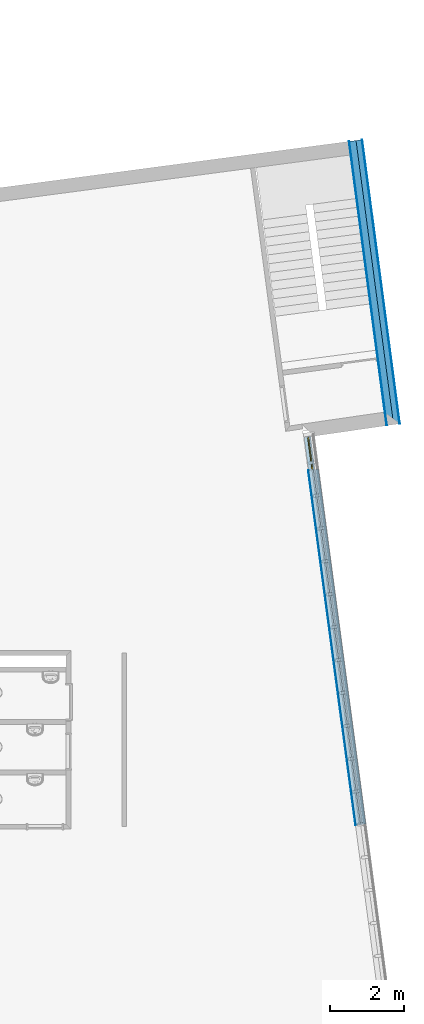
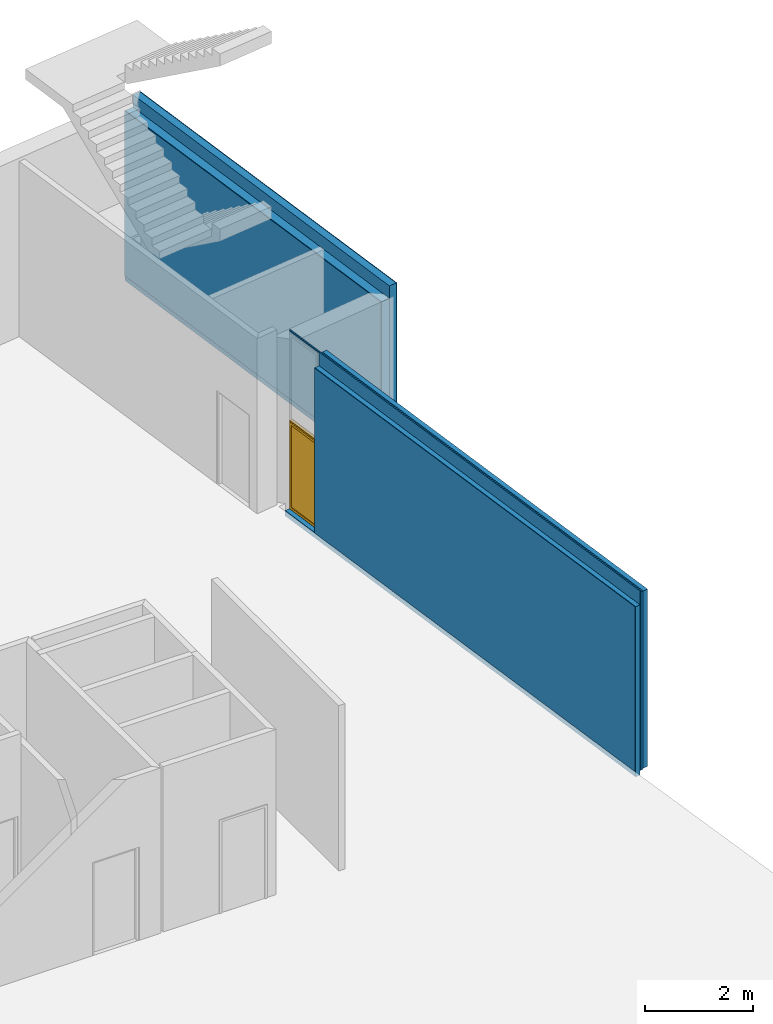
# One storey, part 10 of 17: 9 building element parts, 1 window, 2 openings, 2 elements without a shape of their own.
"""IFC2X3 building model written with IfcOpenShell, lengths in metres."""

from ifc_helpers import new_model, entity, si_unit, converted_unit, money_unit, direction, frame, origin_with_axes, origin_2d_with_axis, place, context, subcontext, project, spatial, polyline, rectangle, outline, extrude, faceted_brep, source, transform, mapped, material, material_list, type_object, element, fill, aggregate, save


model = new_model("IFC2X3")

# Units and contexts
model_context = context("Model", 3, precision=1e-05, world=origin_with_axes(), true_north=direction((0.0, 1.0)))
body_context = subcontext(model_context, "Body", "Model", "MODEL_VIEW")
ifc_project = project(units=[si_unit("LENGTHUNIT", "METRE"), si_unit("AREAUNIT", "SQUARE_METRE"), si_unit("VOLUMEUNIT", "CUBIC_METRE"), converted_unit("PLANEANGLEUNIT", "DEGREE", entity("IfcPlaneAngleMeasure", 0.0174532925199), si_unit("PLANEANGLEUNIT", "RADIAN"), dimensions=[0, 0, 0, 0, 0, 0, 0]), si_unit("SOLIDANGLEUNIT", "STERADIAN"), money_unit("EUR"), converted_unit("TIMEUNIT", "Year", entity("IfcTimeMeasure", 31556926.0), si_unit("TIMEUNIT", "SECOND"), dimensions=[0, 0, 0, 0, 0, 0, 0]), si_unit("MASSUNIT", "GRAM"), si_unit("THERMODYNAMICTEMPERATUREUNIT", "DEGREE_CELSIUS"), si_unit("LUMINOUSINTENSITYUNIT", "LUMEN")], contexts=[model_context])

# Site, building, storey
site_placement = place(None, origin_with_axes())
site = spatial("IfcSite", under=ifc_project, at=site_placement, Name="Undefined", CompositionType="ELEMENT")
building_placement = place(site_placement, origin_with_axes())
building = spatial("IfcBuilding", under=site, at=building_placement, Name="Undefined", CompositionType="ELEMENT")
storey_placement = place(building_placement, frame((0.0, 0.0, 9.425), z_axis=(0.0, 0.0, 1.0), x_axis=(1.0, 0.0, 0.0)))
storey = spatial("IfcBuildingStorey", under=building, at=storey_placement, Name="Mezzannine", CompositionType="ELEMENT", Elevation=9.425)

# Window
ifc_material_1 = material(Name="Background")
ifc_material_2 = material(Name="Air Space")
ifc_material_3 = material(Name="Rigid Insulation")
ifc_material_list = material_list([ifc_material_1, ifc_material_2, ifc_material_1, ifc_material_1, ifc_material_1, ifc_material_3, ifc_material_1, ifc_material_1, ifc_material_1, ifc_material_1, ifc_material_2, ifc_material_1, ifc_material_1])
window_style = type_object("IfcWindowStyle", Name="Fen\x90tre 18", ConstructionType="NOTDEFINED", OperationType="SINGLE_PANEL", ParameterTakesPrecedence=False, Sizeable=False)
shared_shape = source(origin_with_axes(), body_context, "Body", "Brep", [
    faceted_brep([(0.425, 0.0, 1.975), (0.425, -0.025, 1.975), (0.4, -0.025, 1.95), (0.4, -0.05, 1.95), (0.45, -0.05, 2.0), (0.45, 0.0, 2.0), (0.425, 0.0, 0.025), (0.425, -0.025, 0.025), (0.4, -0.025, 0.05), (0.4, -0.05, 0.05), (0.45, -0.05, 0.0), (0.45, 0.0, 0.0)], [[[0, 1, 2, 3, 4, 5]], [[0, 6, 7, 1]], [[8, 2, 1, 7]], [[2, 8, 9, 3]], [[3, 9, 10, 4]], [[4, 10, 11, 5]], [[6, 0, 5, 11]], [[7, 6, 11, 10, 9, 8]]]),
    faceted_brep([(-0.4, -0.025, 1.95), (-0.425, -0.025, 1.975), (-0.425, 0.0, 1.975), (-0.45, 0.0, 2.0), (-0.45, -0.05, 2.0), (-0.4, -0.05, 1.95), (-0.4, -0.025, 0.05), (-0.425, -0.025, 0.025), (-0.425, 0.0, 0.025), (-0.45, 0.0, 0.0), (-0.45, -0.05, 0.0), (-0.4, -0.05, 0.05)], [[[0, 1, 2, 3, 4, 5]], [[1, 0, 6, 7]], [[8, 2, 1, 7]], [[2, 8, 9, 3]], [[10, 4, 3, 9]], [[11, 5, 4, 10]], [[6, 0, 5, 11]], [[7, 6, 11, 10, 9, 8]]]),
    faceted_brep([(-0.4, -0.025, 0.05), (-0.425, -0.025, 0.025), (-0.425, 0.0, 0.025), (-0.45, 0.0, 0.0), (-0.45, -0.05, 0.0), (-0.4, -0.05, 0.05), (0.4, -0.025, 0.05), (0.425, -0.025, 0.025), (0.425, 0.0, 0.025), (0.45, 0.0, 0.0), (0.45, -0.05, 0.0), (0.4, -0.05, 0.05)], [[[0, 1, 2, 3, 4, 5]], [[1, 0, 6, 7]], [[8, 2, 1, 7]], [[2, 8, 9, 3]], [[10, 4, 3, 9]], [[11, 5, 4, 10]], [[6, 0, 5, 11]], [[7, 6, 11, 10, 9, 8]]]),
    faceted_brep([(0.425, 0.0, 1.975), (-0.425, 0.0, 1.975), (-0.45, 0.0, 2.0), (0.45, 0.0, 2.0), (0.425, -0.025, 1.975), (-0.425, -0.025, 1.975), (-0.4, -0.025, 1.95), (-0.4, -0.05, 1.95), (-0.45, -0.05, 2.0), (0.45, -0.05, 2.0), (0.4, -0.05, 1.95), (0.4, -0.025, 1.95)], [[[0, 1, 2, 3]], [[1, 0, 4, 5]], [[5, 6, 7, 8, 2, 1]], [[8, 9, 3, 2]], [[4, 0, 3, 9, 10, 11]], [[6, 5, 4, 11]], [[6, 11, 10, 7]], [[7, 10, 9, 8]]]),
    faceted_brep([(0.375, -0.025, 1.925), (0.425, -0.025, 1.975), (0.425, 0.025, 1.975), (0.375, 0.025, 1.925), (0.375, -0.025, 0.075), (0.425, -0.025, 0.025), (0.425, 0.025, 0.025), (0.375, 0.025, 0.075)], [[[0, 1, 2, 3]], [[0, 4, 5, 1]], [[1, 5, 6, 2]], [[3, 2, 6, 7]], [[4, 0, 3, 7]], [[5, 4, 7, 6]]]),
    faceted_brep([(-0.375, -0.025, 0.075), (-0.425, -0.025, 0.025), (-0.425, 0.025, 0.025), (-0.375, 0.025, 0.075), (-0.375, -0.025, 1.925), (-0.425, -0.025, 1.975), (-0.425, 0.025, 1.975), (-0.375, 0.025, 1.925)], [[[0, 1, 2, 3]], [[0, 4, 5, 1]], [[1, 5, 6, 2]], [[3, 2, 6, 7]], [[4, 0, 3, 7]], [[5, 4, 7, 6]]]),
    faceted_brep([(-0.425, -0.025, 0.025), (-0.375, -0.025, 0.075), (-0.375, 0.025, 0.075), (-0.425, 0.025, 0.025), (0.425, -0.025, 0.025), (0.375, -0.025, 0.075), (0.375, 0.025, 0.075), (0.425, 0.025, 0.025)], [[[0, 1, 2, 3]], [[0, 4, 5, 1]], [[1, 5, 6, 2]], [[3, 2, 6, 7]], [[4, 0, 3, 7]], [[5, 4, 7, 6]]]),
    faceted_brep([(0.425, -0.025, 1.975), (0.375, -0.025, 1.925), (0.375, 0.025, 1.925), (0.425, 0.025, 1.975), (-0.425, -0.025, 1.975), (-0.375, -0.025, 1.925), (-0.375, 0.025, 1.925), (-0.425, 0.025, 1.975)], [[[0, 1, 2, 3]], [[0, 4, 5, 1]], [[1, 5, 6, 2]], [[3, 2, 6, 7]], [[4, 0, 3, 7]], [[5, 4, 7, 6]]]),
    faceted_brep([(0.375, -0.01, 0.075), (-0.375, -0.01, 0.075), (-0.375, 0.01, 0.075), (0.375, 0.01, 0.075), (0.375, -0.01, 1.925), (-0.375, -0.01, 1.925), (-0.375, 0.01, 1.925), (0.375, 0.01, 1.925)], [[[0, 1, 2, 3]], [[0, 4, 5, 1]], [[1, 5, 6, 2]], [[3, 2, 6, 7]], [[4, 0, 3, 7]], [[5, 4, 7, 6]]]),
])
wall_2_placement = place(storey_placement, frame((67.426098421, 9.33793716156, 0.0), z_axis=(0.0, 0.0, 1.0), x_axis=(-0.132256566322, 0.991215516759, 0.0)))
opening_1_placement = place(wall_2_placement, frame((10.1631166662, 0.0, 0.0), z_axis=(0.0, 0.0, 1.0), x_axis=(1.0, 0.0, 0.0)))
window_placement = place(opening_1_placement, frame((-0.45, 0.0, 0.0), z_axis=(0.0, 0.0, 1.0), x_axis=(1.0, 0.0, 0.0)))
window = element("IfcWindow", 1, at=window_placement, inside=storey, type_object=window_style, material=ifc_material_list, Name="WD - 004", OverallHeight=2.0, OverallWidth=0.9, context=body_context, shape_type="MappedRepresentation", body=[
    mapped(shared_shape, transform((0.45, 0.17, 0.0))),
])

# Wall, building element parts
wall_type_1 = type_object("IfcWallType", Name="Profil personnalis\x8e 370 x 4120", PredefinedType="NOTDEFINED")
wall_1_placement = place(storey_placement, frame((68.3507482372, 20.1953635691, 0.0), z_axis=(0.0, 0.0, 1.0), x_axis=(-0.131283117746, 0.99134491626, 0.0)))
wall_1 = element("IfcWall", 2, at=wall_1_placement, inside=storey, type_object=wall_type_1, Name="SW - 014", ObjectType="WALL")
ifc_material_4 = material(Name="Finition ext - Cr\x8epis")
building_element_part_1_placement = place(wall_1_placement, origin_with_axes())
building_element_part_1 = element("IfcBuildingElementPart", 3, at=building_element_part_1_placement, material=ifc_material_4, context=body_context, shape_type="SweptSolid", body=[
    extrude(outline(polyline([(-0.015, 0.0), (0.0, 0.0), (0.0, 4.0), (-0.015, 4.0), (-0.015, 0.0)])), frame((0.0, 0.0, 0.0), z_axis=(-1.0, 0.0, 0.0), x_axis=(0.0, -1.0, 0.0)), (0.0, 0.0, -1.0), 7.77321870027),
])
ifc_material_5 = material(Name="Isolation - Fibres de bois")
building_element_part_2_placement = place(wall_1_placement, origin_with_axes())
building_element_part_2 = element("IfcBuildingElementPart", 4, at=building_element_part_2_placement, material=ifc_material_5, context=body_context, shape_type="SweptSolid", body=[
    extrude(outline(polyline([(-0.175, 0.0), (-0.015, 0.0), (-0.015, 4.0), (-0.175, 4.0), (-0.175, 0.0)])), frame((0.0, 0.0, 0.0), z_axis=(-1.0, 0.0, 0.0), x_axis=(0.0, -1.0, 0.0)), (0.0, 0.0, -1.0), 7.77321870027),
])
ifc_material_6 = material(Name="Struct. - B.A. banch\x8e")
building_element_part_3_placement = place(wall_1_placement, origin_with_axes())
building_element_part_3 = element("IfcBuildingElementPart", 5, at=building_element_part_3_placement, material=ifc_material_6, context=body_context, shape_type="SweptSolid", body=[
    extrude(outline(polyline([(-0.355, -0.12), (-0.175, -0.12), (-0.175, 3.72), (-0.355, 3.72), (-0.355, -0.12)])), frame((0.0, 0.0, 0.0), z_axis=(-1.0, 0.0, 0.0), x_axis=(0.0, -1.0, 0.0)), (0.0, 0.0, -1.0), 7.77321870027),
])
ifc_material_7 = material(Name="Finition int - Enduit pl\x89tre")
building_element_part_4_placement = place(wall_1_placement, origin_with_axes())
building_element_part_4 = element("IfcBuildingElementPart", 6, at=building_element_part_4_placement, material=ifc_material_7, context=body_context, shape_type="SweptSolid", body=[
    extrude(outline(polyline([(-0.37, 0.0), (-0.355, 0.0), (-0.355, 3.72), (-0.37, 3.72), (-0.37, 0.0)])), frame((0.0, 0.0, 0.0), z_axis=(-1.0, 0.0, 0.0), x_axis=(0.0, -1.0, 0.0)), (0.0, 0.0, -1.0), 7.77321870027),
])
aggregate(wall_1, [building_element_part_1, building_element_part_2, building_element_part_3, building_element_part_4])

# Wall, opening
wall_type_2 = type_object("IfcWallType", Name="Profil personnalis\x8e 287 x 4150", PredefinedType="NOTDEFINED")
wall_2 = element("IfcWall", 7, at=wall_2_placement, inside=storey, type_object=wall_type_2, Name="SW - 012", ObjectType="WALL")
opening_1 = element("IfcOpeningElement", 8, at=opening_1_placement, cuts=wall_2, Name="WD - 004", context=body_context, shape_type="SweptSolid", body=[
    extrude(rectangle(XDim=0.9, YDim=2.0, at=origin_2d_with_axis()), frame((0.0, 0.574, 1.0), z_axis=(0.0, 1.0, 0.0), x_axis=(-1.0, 0.0, 0.0)), (0.0, 0.0, -1.0), 0.454),
    extrude(rectangle(XDim=0.9, YDim=2.0, at=origin_2d_with_axis()), frame((0.0, -0.287, 1.0), z_axis=(0.0, -1.0, 0.0), x_axis=(-1.0, 0.0, 0.0)), (0.0, 0.0, -1.0), 0.407),
])

fill(opening_1, window)

# Opening
opening_2_placement = place(wall_2_placement, frame((10.1631166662, 0.0, 2.0), z_axis=(0.0, 0.0, 1.0), x_axis=(1.0, 0.0, 0.0)))
element("IfcOpeningElement", 9, at=opening_2_placement, cuts=wall_2, Name="WD - 004", context=body_context, shape_type="SweptSolid", body=[
    extrude(rectangle(XDim=0.9, YDim=2.0, at=origin_2d_with_axis()), frame((0.0, 0.574, 1.0), z_axis=(0.0, 1.0, 0.0), x_axis=(-1.0, 0.0, 0.0)), (0.0, 0.0, -1.0), 0.454),
    extrude(rectangle(XDim=0.9, YDim=2.0, at=origin_2d_with_axis()), frame((0.0, -0.287, 1.0), z_axis=(0.0, -1.0, 0.0), x_axis=(-1.0, 0.0, 0.0)), (0.0, 0.0, -1.0), 0.407),
])

# Building element part
building_element_part_5_placement = place(wall_2_placement, origin_with_axes())
building_element_part_5 = element("IfcBuildingElementPart", 10, at=building_element_part_5_placement, material=ifc_material_7, context=body_context, shape_type="SweptSolid", body=[
    extrude(outline(polyline([(-0.1, 0.0), (0.0, 0.0), (0.0, 4.0), (-0.1, 4.0), (-0.1, 0.0)])), frame((0.0, 0.0, 0.0), z_axis=(-1.0, 0.0, 0.0), x_axis=(0.0, -1.0, 0.0)), (0.0, 0.0, -1.0), 10.6131166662),
])

ifc_material_8 = material(Name="Lame d'air")
building_element_part_6_placement = place(wall_2_placement, origin_with_axes())
building_element_part_6 = element("IfcBuildingElementPart", 11, at=building_element_part_6_placement, material=ifc_material_8, context=body_context, shape_type="SweptSolid", body=[
    extrude(outline(polyline([(-0.15, -0.02), (-0.1, -0.02), (-0.1, 4.0), (-0.15, 4.0), (-0.15, -0.02)])), frame((0.0, 0.0, 0.0), z_axis=(-1.0, 0.0, 0.0), x_axis=(0.0, -1.0, 0.0)), (0.0, 0.0, -1.0), 10.6131166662),
])

ifc_material_9 = material(Name="Isolation - Laine de verre")
building_element_part_7_placement = place(wall_2_placement, origin_with_axes())
building_element_part_7 = element("IfcBuildingElementPart", 12, at=building_element_part_7_placement, material=ifc_material_9, context=body_context, shape_type="SweptSolid", body=[
    extrude(outline(polyline([(-0.175, -0.02), (-0.15, -0.02), (-0.15, 4.03), (-0.175, 4.03), (-0.175, -0.02)])), frame((0.0, 0.0, 0.0), z_axis=(-1.0, 0.0, 0.0), x_axis=(0.0, -1.0, 0.0)), (0.0, 0.0, -1.0), 10.6131166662),
])

building_element_part_8_placement = place(wall_2_placement, origin_with_axes())
building_element_part_8 = element("IfcBuildingElementPart", 13, at=building_element_part_8_placement, material=ifc_material_6, context=body_context, shape_type="SweptSolid", body=[
    extrude(outline(polyline([(-0.275, -0.12), (-0.175, -0.12), (-0.175, 3.72), (-0.275, 3.72), (-0.275, -0.12)])), frame((0.0, 0.0, 0.0), z_axis=(-1.0, 0.0, 0.0), x_axis=(0.0, -1.0, 0.0)), (0.0, 0.0, -1.0), 10.6131166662),
])

ifc_material_10 = material(Name="Finition int - Enduit min\x8eral")
building_element_part_9_placement = place(wall_2_placement, origin_with_axes())
building_element_part_9 = element("IfcBuildingElementPart", 14, at=building_element_part_9_placement, material=ifc_material_10, context=body_context, shape_type="SweptSolid", body=[
    extrude(outline(polyline([(-0.287, 0.0), (-0.275, 0.0), (-0.275, 3.72), (-0.287, 3.72), (-0.287, 0.0)])), frame((0.0, 0.0, 0.0), z_axis=(-1.0, 0.0, 0.0), x_axis=(0.0, -1.0, 0.0)), (0.0, 0.0, -1.0), 10.6131166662),
])

aggregate(wall_2, [building_element_part_5, building_element_part_6, building_element_part_7, building_element_part_8, building_element_part_9])

save(model, "model.ifc")
